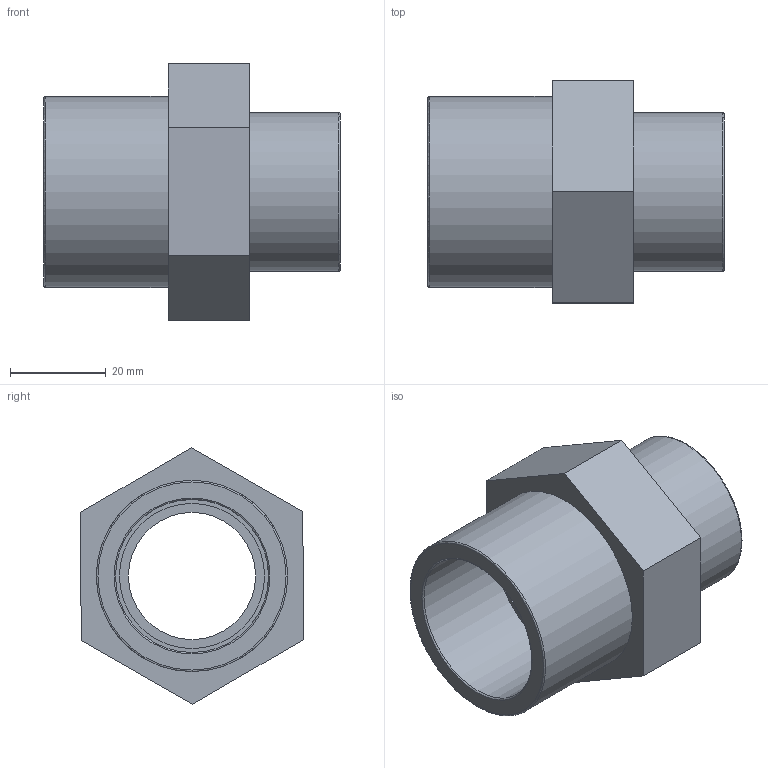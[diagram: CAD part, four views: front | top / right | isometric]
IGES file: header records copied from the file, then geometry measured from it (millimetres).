
Global section: file name: 052102032010.ipt; native system: Autodesk Inventor 2015; preprocessor: unknown; author: KIM; date: 20171207.165357; units: millimetre
Bounding box: 62 x 46.6 x 53.69 mm (x, y, z)
Volume: 38146.5 mm3; surface area: 16326.8 mm2
Topology: 1 solids, 1 shells, 21 faces, 55 edges, 40 vertices
Faces by surface type: plane 12, revolution 7, cylinder 2
Full cylindrical faces by diameter (mm): 33.249 x1, 40 x1
